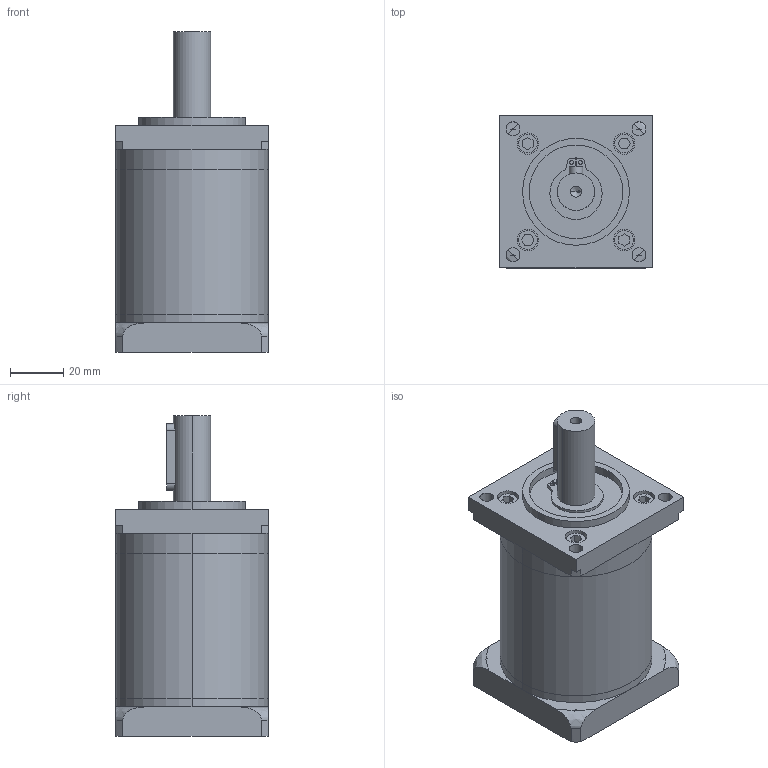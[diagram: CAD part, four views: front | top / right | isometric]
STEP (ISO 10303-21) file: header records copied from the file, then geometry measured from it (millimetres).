
FILE_DESCRIPTION (( 'STEP AP214' ), '1' );
FILE_NAME ('DLF57-L3-( )-J14-A.step', '2020-11-17T06:01:17', ( 'Moofasta' ), ( '' ), 'SwSTEP 2.0', 'SolidWorks 2020', '' );
FILE_SCHEMA (( 'AUTOMOTIVE_DESIGN' ));
Length unit declared in the file: millimetre
Products named in the file (1): DLF57-L3-(    )-J14-A
Bounding box: 57 x 57 x 120 mm (x, y, z)
Volume: 226161 mm3; surface area: 45970.1 mm2
Topology: 6 solids, 6 shells, 215 faces, 505 edges, 330 vertices
Faces by surface type: plane 115, cylinder 85, cone 11, bspline 4
Entity records: 7087 total; most frequent: CARTESIAN_POINT 1481, DIRECTION 1085, ORIENTED_EDGE 1004, EDGE_CURVE 502, AXIS2_PLACEMENT_3D 388, VERTEX_POINT 330, LINE 309, VECTOR 309
